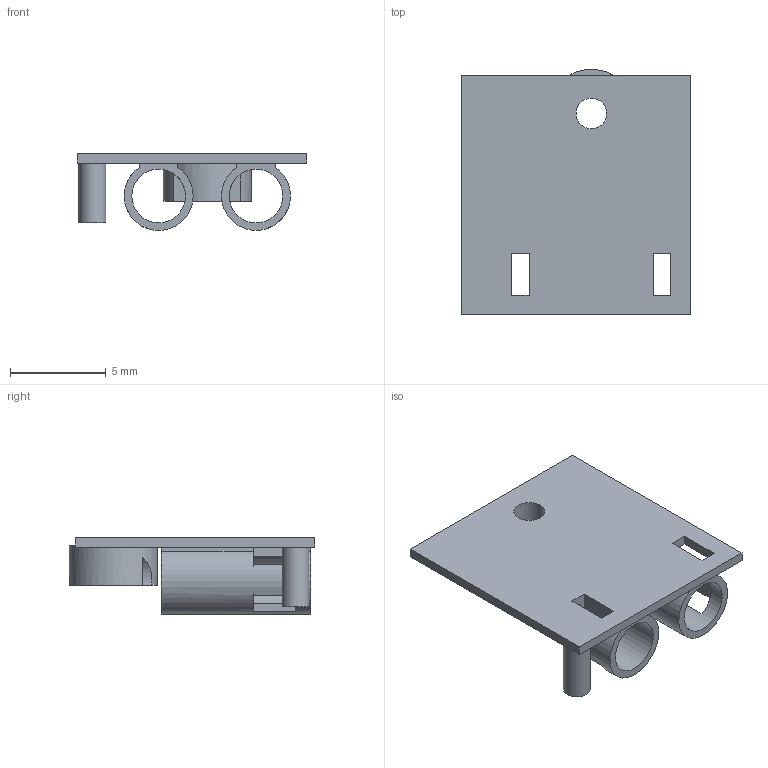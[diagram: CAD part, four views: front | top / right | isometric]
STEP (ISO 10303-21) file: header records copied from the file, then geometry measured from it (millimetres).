
FILE_DESCRIPTION(('FreeCAD Model'),'2;1');
FILE_NAME('Open CASCADE Shape Model','2026-11-13T18:42:42',('FreeCAD'),( 'FreeCAD'),'Open CASCADE STEP processor 7.8','FreeCAD','Unknown');
FILE_SCHEMA(('AUTOMOTIVE_DESIGN { 1 0 10303 214 1 1 1 1 }'));
Length unit declared in the file: millimetre
Products named in the file (1): Open CASCADE STEP translator 7.8 18
Bounding box: 12 x 12.8 x 4.01 mm (x, y, z)
Volume: 162.2 mm3; surface area: 642.6 mm2
Topology: 1 solids, 1 shells, 44 faces, 136 edges, 92 vertices
Faces by surface type: plane 34, cylinder 10
Full cylindrical faces by diameter (mm): 1.4 x1, 1.6 x1, 2.6 x1, 2.8 x2, 4.6 x1
Entity records: 1624 total; most frequent: CARTESIAN_POINT 325, ORIENTED_EDGE 272, DIRECTION 262, EDGE_CURVE 136, LINE 96, VECTOR 96, VERTEX_POINT 92, AXIS2_PLACEMENT_3D 83
